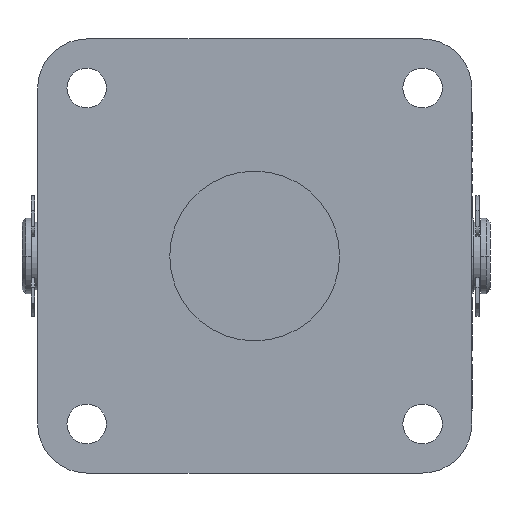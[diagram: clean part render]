
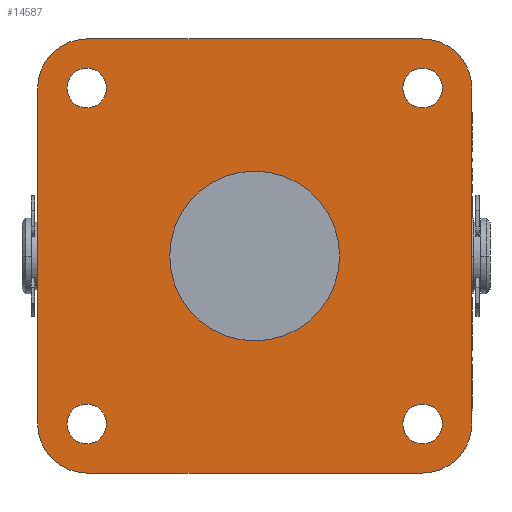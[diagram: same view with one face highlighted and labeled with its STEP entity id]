
A CAD part, left-side view. The second image highlights one B-rep face of the part: STEP entity #14587.
In plain terms, the highlighted planar face has unit normal (-1, 0, 0).
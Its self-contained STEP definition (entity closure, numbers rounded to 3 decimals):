
#14360=CARTESIAN_POINT('Vertex',(-13.,57.5,-44.5)) ;
#14363=CARTESIAN_POINT('Line Origine',(-13.,57.5,0.)) ;
#14367=CARTESIAN_POINT('Vertex',(-13.,57.5,44.5)) ;
#14435=CARTESIAN_POINT('Axis2P3D Location',(-13.,0.,0.)) ;
#14440=CARTESIAN_POINT('Line Origine',(-13.,0.,57.5)) ;
#14444=CARTESIAN_POINT('Vertex',(-13.,44.5,57.5)) ;
#14446=CARTESIAN_POINT('Vertex',(-13.,-44.5,57.5)) ;
#14449=CARTESIAN_POINT('Axis2P3D Location',(-13.,44.5,44.5)) ;
#14454=CARTESIAN_POINT('Axis2P3D Location',(-13.,44.5,-44.5)) ;
#14458=CARTESIAN_POINT('Vertex',(-13.,44.5,-57.5)) ;
#14461=CARTESIAN_POINT('Line Origine',(-13.,0.,-57.5)) ;
#14465=CARTESIAN_POINT('Vertex',(-13.,-44.5,-57.5)) ;
#14468=CARTESIAN_POINT('Axis2P3D Location',(-13.,-44.5,-44.5)) ;
#14472=CARTESIAN_POINT('Vertex',(-13.,-57.5,-44.5)) ;
#14475=CARTESIAN_POINT('Line Origine',(-13.,-57.5,0.)) ;
#14479=CARTESIAN_POINT('Vertex',(-13.,-57.5,44.5)) ;
#14482=CARTESIAN_POINT('Axis2P3D Location',(-13.,-44.5,44.5)) ;
#14497=CARTESIAN_POINT('Axis2P3D Location',(-13.,0.,0.)) ;
#14501=CARTESIAN_POINT('Vertex',(-13.,22.5,0.)) ;
#14503=CARTESIAN_POINT('Vertex',(-13.,-22.5,0.)) ;
#14506=CARTESIAN_POINT('Axis2P3D Location',(-13.,0.,0.)) ;
#14515=CARTESIAN_POINT('Axis2P3D Location',(-13.,-44.5,44.5)) ;
#14519=CARTESIAN_POINT('Vertex',(-13.,-39.25,44.5)) ;
#14521=CARTESIAN_POINT('Vertex',(-13.,-49.75,44.5)) ;
#14524=CARTESIAN_POINT('Axis2P3D Location',(-13.,-44.5,44.5)) ;
#14533=CARTESIAN_POINT('Axis2P3D Location',(-13.,-44.5,-44.5)) ;
#14537=CARTESIAN_POINT('Vertex',(-13.,-39.25,-44.5)) ;
#14539=CARTESIAN_POINT('Vertex',(-13.,-49.75,-44.5)) ;
#14542=CARTESIAN_POINT('Axis2P3D Location',(-13.,-44.5,-44.5)) ;
#14551=CARTESIAN_POINT('Axis2P3D Location',(-13.,44.5,-44.5)) ;
#14555=CARTESIAN_POINT('Vertex',(-13.,39.25,-44.5)) ;
#14557=CARTESIAN_POINT('Vertex',(-13.,49.75,-44.5)) ;
#14560=CARTESIAN_POINT('Axis2P3D Location',(-13.,44.5,-44.5)) ;
#14569=CARTESIAN_POINT('Axis2P3D Location',(-13.,44.5,44.5)) ;
#14573=CARTESIAN_POINT('Vertex',(-13.,39.25,44.5)) ;
#14575=CARTESIAN_POINT('Vertex',(-13.,49.75,44.5)) ;
#14578=CARTESIAN_POINT('Axis2P3D Location',(-13.,44.5,44.5)) ;
#14364=DIRECTION('Vector Direction',(0.,0.,1.)) ;
#14436=DIRECTION('Axis2P3D Direction',(1.,0.,0.)) ;
#14437=DIRECTION('Axis2P3D XDirection',(0.,1.,0.)) ;
#14441=DIRECTION('Vector Direction',(0.,1.,0.)) ;
#14450=DIRECTION('Axis2P3D Direction',(1.,0.,0.)) ;
#14455=DIRECTION('Axis2P3D Direction',(1.,0.,0.)) ;
#14462=DIRECTION('Vector Direction',(0.,-1.,0.)) ;
#14469=DIRECTION('Axis2P3D Direction',(1.,0.,0.)) ;
#14476=DIRECTION('Vector Direction',(0.,0.,-1.)) ;
#14483=DIRECTION('Axis2P3D Direction',(1.,0.,0.)) ;
#14498=DIRECTION('Axis2P3D Direction',(1.,0.,0.)) ;
#14507=DIRECTION('Axis2P3D Direction',(1.,0.,0.)) ;
#14516=DIRECTION('Axis2P3D Direction',(1.,0.,0.)) ;
#14525=DIRECTION('Axis2P3D Direction',(1.,0.,0.)) ;
#14534=DIRECTION('Axis2P3D Direction',(1.,0.,0.)) ;
#14543=DIRECTION('Axis2P3D Direction',(1.,0.,0.)) ;
#14552=DIRECTION('Axis2P3D Direction',(1.,0.,0.)) ;
#14561=DIRECTION('Axis2P3D Direction',(1.,0.,0.)) ;
#14570=DIRECTION('Axis2P3D Direction',(1.,0.,0.)) ;
#14579=DIRECTION('Axis2P3D Direction',(1.,0.,0.)) ;
#14438=AXIS2_PLACEMENT_3D('Plane Axis2P3D',#14435,#14436,#14437) ;
#14451=AXIS2_PLACEMENT_3D('Circle Axis2P3D',#14449,#14450,$) ;
#14456=AXIS2_PLACEMENT_3D('Circle Axis2P3D',#14454,#14455,$) ;
#14470=AXIS2_PLACEMENT_3D('Circle Axis2P3D',#14468,#14469,$) ;
#14484=AXIS2_PLACEMENT_3D('Circle Axis2P3D',#14482,#14483,$) ;
#14499=AXIS2_PLACEMENT_3D('Circle Axis2P3D',#14497,#14498,$) ;
#14508=AXIS2_PLACEMENT_3D('Circle Axis2P3D',#14506,#14507,$) ;
#14517=AXIS2_PLACEMENT_3D('Circle Axis2P3D',#14515,#14516,$) ;
#14526=AXIS2_PLACEMENT_3D('Circle Axis2P3D',#14524,#14525,$) ;
#14535=AXIS2_PLACEMENT_3D('Circle Axis2P3D',#14533,#14534,$) ;
#14544=AXIS2_PLACEMENT_3D('Circle Axis2P3D',#14542,#14543,$) ;
#14553=AXIS2_PLACEMENT_3D('Circle Axis2P3D',#14551,#14552,$) ;
#14562=AXIS2_PLACEMENT_3D('Circle Axis2P3D',#14560,#14561,$) ;
#14571=AXIS2_PLACEMENT_3D('Circle Axis2P3D',#14569,#14570,$) ;
#14580=AXIS2_PLACEMENT_3D('Circle Axis2P3D',#14578,#14579,$) ;
#14488=ORIENTED_EDGE('',*,*,#14448,.F.) ;
#14489=ORIENTED_EDGE('',*,*,#14453,.F.) ;
#14490=ORIENTED_EDGE('',*,*,#14369,.F.) ;
#14491=ORIENTED_EDGE('',*,*,#14460,.F.) ;
#14492=ORIENTED_EDGE('',*,*,#14467,.F.) ;
#14493=ORIENTED_EDGE('',*,*,#14474,.F.) ;
#14494=ORIENTED_EDGE('',*,*,#14481,.F.) ;
#14495=ORIENTED_EDGE('',*,*,#14486,.F.) ;
#14512=ORIENTED_EDGE('',*,*,#14505,.F.) ;
#14513=ORIENTED_EDGE('',*,*,#14510,.F.) ;
#14530=ORIENTED_EDGE('',*,*,#14523,.T.) ;
#14531=ORIENTED_EDGE('',*,*,#14528,.T.) ;
#14548=ORIENTED_EDGE('',*,*,#14541,.T.) ;
#14549=ORIENTED_EDGE('',*,*,#14546,.T.) ;
#14566=ORIENTED_EDGE('',*,*,#14559,.T.) ;
#14567=ORIENTED_EDGE('',*,*,#14564,.T.) ;
#14584=ORIENTED_EDGE('',*,*,#14577,.T.) ;
#14585=ORIENTED_EDGE('',*,*,#14582,.T.) ;
#14514=FACE_BOUND('',#14511,.T.) ;
#14532=FACE_BOUND('',#14529,.T.) ;
#14550=FACE_BOUND('',#14547,.T.) ;
#14568=FACE_BOUND('',#14565,.T.) ;
#14586=FACE_BOUND('',#14583,.T.) ;
#14365=VECTOR('Line Direction',#14364,1.) ;
#14442=VECTOR('Line Direction',#14441,1.) ;
#14463=VECTOR('Line Direction',#14462,1.) ;
#14477=VECTOR('Line Direction',#14476,1.) ;
#14587=ADVANCED_FACE('PartBody',(#14496,#14514,#14532,#14550,#14568,#14586),#14439,.F.) ;
#14452=CIRCLE('generated circle',#14451,13.) ;
#14457=CIRCLE('generated circle',#14456,13.) ;
#14471=CIRCLE('generated circle',#14470,13.) ;
#14485=CIRCLE('generated circle',#14484,13.) ;
#14500=CIRCLE('generated circle',#14499,22.5) ;
#14509=CIRCLE('generated circle',#14508,22.5) ;
#14518=CIRCLE('generated circle',#14517,5.25) ;
#14527=CIRCLE('generated circle',#14526,5.25) ;
#14536=CIRCLE('generated circle',#14535,5.25) ;
#14545=CIRCLE('generated circle',#14544,5.25) ;
#14554=CIRCLE('generated circle',#14553,5.25) ;
#14563=CIRCLE('generated circle',#14562,5.25) ;
#14572=CIRCLE('generated circle',#14571,5.25) ;
#14581=CIRCLE('generated circle',#14580,5.25) ;
#14369=EDGE_CURVE('',#14361,#14368,#14366,.T.) ;
#14448=EDGE_CURVE('',#14445,#14447,#14443,.F.) ;
#14453=EDGE_CURVE('',#14368,#14445,#14452,.T.) ;
#14460=EDGE_CURVE('',#14459,#14361,#14457,.T.) ;
#14467=EDGE_CURVE('',#14466,#14459,#14464,.F.) ;
#14474=EDGE_CURVE('',#14473,#14466,#14471,.T.) ;
#14481=EDGE_CURVE('',#14480,#14473,#14478,.T.) ;
#14486=EDGE_CURVE('',#14447,#14480,#14485,.T.) ;
#14505=EDGE_CURVE('',#14502,#14504,#14500,.F.) ;
#14510=EDGE_CURVE('',#14504,#14502,#14509,.F.) ;
#14523=EDGE_CURVE('',#14520,#14522,#14518,.T.) ;
#14528=EDGE_CURVE('',#14522,#14520,#14527,.T.) ;
#14541=EDGE_CURVE('',#14538,#14540,#14536,.T.) ;
#14546=EDGE_CURVE('',#14540,#14538,#14545,.T.) ;
#14559=EDGE_CURVE('',#14556,#14558,#14554,.T.) ;
#14564=EDGE_CURVE('',#14558,#14556,#14563,.T.) ;
#14577=EDGE_CURVE('',#14574,#14576,#14572,.T.) ;
#14582=EDGE_CURVE('',#14576,#14574,#14581,.T.) ;
#14487=EDGE_LOOP('',(#14488,#14489,#14490,#14491,#14492,#14493,#14494,#14495)) ;
#14511=EDGE_LOOP('',(#14512,#14513)) ;
#14529=EDGE_LOOP('',(#14530,#14531)) ;
#14547=EDGE_LOOP('',(#14548,#14549)) ;
#14565=EDGE_LOOP('',(#14566,#14567)) ;
#14583=EDGE_LOOP('',(#14584,#14585)) ;
#14496=FACE_OUTER_BOUND('',#14487,.T.) ;
#14366=LINE('Line',#14363,#14365) ;
#14443=LINE('Line',#14440,#14442) ;
#14464=LINE('Line',#14461,#14463) ;
#14478=LINE('Line',#14475,#14477) ;
#14439=PLANE('',#14438) ;
#14361=VERTEX_POINT('',#14360) ;
#14368=VERTEX_POINT('',#14367) ;
#14445=VERTEX_POINT('',#14444) ;
#14447=VERTEX_POINT('',#14446) ;
#14459=VERTEX_POINT('',#14458) ;
#14466=VERTEX_POINT('',#14465) ;
#14473=VERTEX_POINT('',#14472) ;
#14480=VERTEX_POINT('',#14479) ;
#14502=VERTEX_POINT('',#14501) ;
#14504=VERTEX_POINT('',#14503) ;
#14520=VERTEX_POINT('',#14519) ;
#14522=VERTEX_POINT('',#14521) ;
#14538=VERTEX_POINT('',#14537) ;
#14540=VERTEX_POINT('',#14539) ;
#14556=VERTEX_POINT('',#14555) ;
#14558=VERTEX_POINT('',#14557) ;
#14574=VERTEX_POINT('',#14573) ;
#14576=VERTEX_POINT('',#14575) ;
